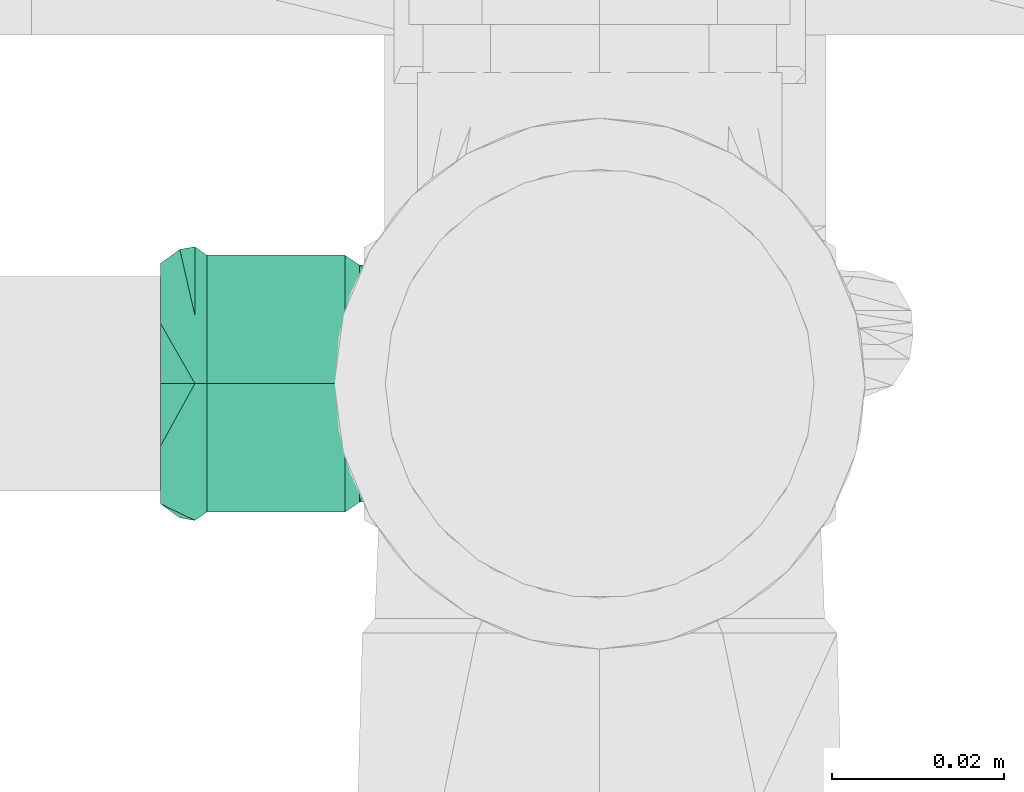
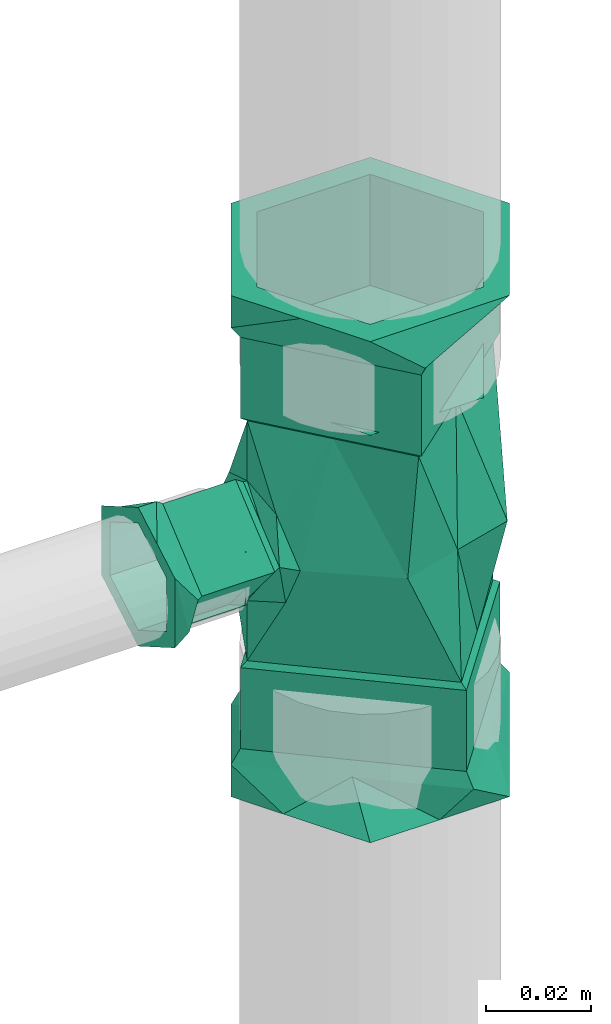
# One storey, part 208 of 589: 1 flow fitting.
"""IFC2X3 building model written with IfcOpenShell, lengths in millimetres."""

from ifc_helpers import new_model, entity, si_unit, converted_unit, derived_unit, direction, frame, origin, place, context, subcontext, project, spatial, faceted_brep, source, transform, mapped, material, type_object, type_shapes, element, save


model = new_model("IFC2X3")

# Units and contexts
model_context = context("Model", 3, precision=0.01, world=origin(), true_north=direction((6.123031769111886e-17, 1.0)))
body_context = subcontext(model_context, "Body", "Model", "MODEL_VIEW")
ifc_project = project(units=[si_unit("LENGTHUNIT", "METRE", prefix="MILLI"), si_unit("AREAUNIT", "SQUARE_METRE"), si_unit("VOLUMEUNIT", "CUBIC_METRE"), converted_unit("PLANEANGLEUNIT", "DEGREE", entity("IfcRatioMeasure", 0.017453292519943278), si_unit("PLANEANGLEUNIT", "RADIAN"), dimensions=[0, 0, 0, 0, 0, 0, 0]), si_unit("MASSUNIT", "GRAM", prefix="KILO"), derived_unit("MASSDENSITYUNIT", [(si_unit("MASSUNIT", "GRAM", prefix="KILO"), 1), (si_unit("LENGTHUNIT", "METRE"), -3)]), derived_unit("IONCONCENTRATIONUNIT", [(si_unit("MASSUNIT", "GRAM", prefix="KILO"), 1), (si_unit("LENGTHUNIT", "METRE"), -3)]), derived_unit("MOMENTOFINERTIAUNIT", [(si_unit("LENGTHUNIT", "METRE"), 4)]), si_unit("TIMEUNIT", "SECOND"), si_unit("FREQUENCYUNIT", "HERTZ"), si_unit("THERMODYNAMICTEMPERATUREUNIT", "DEGREE_CELSIUS"), derived_unit("THERMALTRANSMITTANCEUNIT", [(si_unit("MASSUNIT", "GRAM", prefix="KILO"), 1), (si_unit("THERMODYNAMICTEMPERATUREUNIT", "KELVIN"), -1), (si_unit("TIMEUNIT", "SECOND"), -3)]), derived_unit("THERMALCONDUCTANCEUNIT", [(si_unit("MASSUNIT", "GRAM", prefix="KILO"), 1), (si_unit("THERMODYNAMICTEMPERATUREUNIT", "KELVIN"), -1), (si_unit("TIMEUNIT", "SECOND"), -3), (si_unit("LENGTHUNIT", "METRE"), 1)]), derived_unit("VOLUMETRICFLOWRATEUNIT", [(si_unit("LENGTHUNIT", "METRE"), 3), (si_unit("TIMEUNIT", "SECOND"), -1)]), derived_unit("MASSFLOWRATEUNIT", [(si_unit("MASSUNIT", "GRAM", prefix="KILO"), 1), (si_unit("TIMEUNIT", "SECOND"), -1)]), derived_unit("ROTATIONALFREQUENCYUNIT", [(si_unit("TIMEUNIT", "SECOND"), -1)]), si_unit("ELECTRICCURRENTUNIT", "AMPERE"), si_unit("ELECTRICVOLTAGEUNIT", "VOLT"), si_unit("POWERUNIT", "WATT"), si_unit("FORCEUNIT", "NEWTON", prefix="KILO"), si_unit("ILLUMINANCEUNIT", "LUX"), si_unit("LUMINOUSFLUXUNIT", "LUMEN"), si_unit("LUMINOUSINTENSITYUNIT", "CANDELA"), derived_unit("USERDEFINED", [(si_unit("MASSUNIT", "GRAM", prefix="KILO"), -1), (si_unit("LENGTHUNIT", "METRE"), -2), (si_unit("TIMEUNIT", "SECOND"), 3), (si_unit("LUMINOUSFLUXUNIT", "LUMEN"), 1)]), derived_unit("USERDEFINED", [(si_unit("MASSUNIT", "GRAM", prefix="KILO"), 1), (si_unit("TIMEUNIT", "SECOND"), -3), (si_unit("LENGTHUNIT", "METRE"), 3), (si_unit("ELECTRICCURRENTUNIT", "AMPERE"), -2)]), derived_unit("SOUNDPOWERUNIT", [(si_unit("MASSUNIT", "GRAM", prefix="KILO"), 1), (si_unit("TIMEUNIT", "SECOND"), -3), (si_unit("LENGTHUNIT", "METRE"), 2)]), derived_unit("SOUNDPRESSUREUNIT", [(si_unit("MASSUNIT", "GRAM", prefix="KILO"), 1), (si_unit("LENGTHUNIT", "METRE"), -1), (si_unit("TIMEUNIT", "SECOND"), -2)]), derived_unit("LINEARVELOCITYUNIT", [(si_unit("LENGTHUNIT", "METRE"), 1), (si_unit("TIMEUNIT", "SECOND"), -1)]), si_unit("PRESSUREUNIT", "PASCAL"), derived_unit("USERDEFINED", [(si_unit("MASSUNIT", "GRAM", prefix="KILO"), 1), (si_unit("LENGTHUNIT", "METRE"), -2), (si_unit("TIMEUNIT", "SECOND"), -2)]), derived_unit("LINEARFORCEUNIT", [(si_unit("MASSUNIT", "GRAM", prefix="KILO"), 1), (si_unit("TIMEUNIT", "SECOND"), -2)]), derived_unit("PLANARFORCEUNIT", [(si_unit("MASSUNIT", "GRAM", prefix="KILO"), 1), (si_unit("LENGTHUNIT", "METRE"), -1), (si_unit("TIMEUNIT", "SECOND"), -2)]), derived_unit("SPECIFICHEATCAPACITYUNIT", [(si_unit("THERMODYNAMICTEMPERATUREUNIT", "KELVIN"), -1), (si_unit("LENGTHUNIT", "METRE"), 2), (si_unit("TIMEUNIT", "SECOND"), -2)]), derived_unit("HEATINGVALUEUNIT", [(si_unit("LENGTHUNIT", "METRE"), 2), (si_unit("TIMEUNIT", "SECOND"), -2)]), derived_unit("VAPORPERMEABILITYUNIT", [(si_unit("LENGTHUNIT", "METRE"), -1), (si_unit("TIMEUNIT", "SECOND"), 1)]), derived_unit("DYNAMICVISCOSITYUNIT", [(si_unit("MASSUNIT", "GRAM", prefix="KILO"), 1), (si_unit("TIMEUNIT", "SECOND"), -1), (si_unit("LENGTHUNIT", "METRE"), -1)]), derived_unit("THERMALEXPANSIONCOEFFICIENTUNIT", [(si_unit("THERMODYNAMICTEMPERATUREUNIT", "KELVIN"), -1)]), derived_unit("MODULUSOFELASTICITYUNIT", [(si_unit("MASSUNIT", "GRAM", prefix="KILO"), 1), (si_unit("LENGTHUNIT", "METRE"), -1), (si_unit("TIMEUNIT", "SECOND"), -2)]), derived_unit("ISOTHERMALMOISTURECAPACITYUNIT", [(si_unit("LENGTHUNIT", "METRE"), 3), (si_unit("MASSUNIT", "GRAM", prefix="KILO"), -1)]), derived_unit("MOISTUREDIFFUSIVITYUNIT", [(si_unit("TIMEUNIT", "SECOND"), -1), (si_unit("LENGTHUNIT", "METRE"), 2)])], contexts=[model_context])

# Site, building, storey
site_placement = place(None, origin())
site = spatial("IfcSite", under=ifc_project, at=site_placement, Name="Default", CompositionType="ELEMENT")
building_placement = place(site_placement, origin())
building = spatial("IfcBuilding", under=site, at=building_placement, CompositionType="ELEMENT")
storey_placement = place(building_placement, frame((0.0, 0.0, 100.0)))
storey = spatial("IfcBuildingStorey", under=building, at=storey_placement, Name="TÉRREO", CompositionType="ELEMENT", Elevation=100.0)

# Flow fitting
ifc_material = material(Name="PVC Marrom")
pipe_fitting_type = type_object("IfcPipeFittingType", Name="PVC Marrom Soldável_Tê e Tê de Reducão_Rodrigo MEP:Tê", PredefinedType="NOTDEFINED", material=ifc_material)
shared_shape = source(origin(), body_context, "Body", "Brep", [
    faceted_brep([(8.099999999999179, -51.19999999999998, -14.029611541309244), (12.500000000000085, -51.19999999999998, 0.0), (6.249999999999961, -51.199999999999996, -10.82531754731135), (12.006116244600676, -51.19999999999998, -7.26401974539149), (-6.250000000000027, -51.20000000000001, -10.825317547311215), (0.0, -51.2, -14.02961154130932), (16.20000000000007, -51.199999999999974, 0.0), (6.250000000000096, -51.199999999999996, 10.825317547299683), (12.15000000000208, -51.19999999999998, 7.014805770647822), (8.10000000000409, -51.19999999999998, 14.029611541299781), (-6.249999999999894, -51.20000000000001, 10.825317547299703), (0.0, -51.2, 14.02961154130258), (-8.09999999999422, -51.20000000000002, 14.029611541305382), (-12.00611625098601, -51.20000000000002, 7.2640197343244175), (-16.199999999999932, -51.200000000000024, 0.0), (-12.499999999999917, -51.20000000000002, 0.0), (-12.149999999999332, -51.20000000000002, -7.014805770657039), (-8.099999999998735, -51.20000000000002, -14.0296115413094), (-9.505660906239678, -47.19999999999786, 7.977099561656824), (-2.81132181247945, -47.19999999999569, 15.95419912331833), (4.194176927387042, -48.95626714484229, 15.647647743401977), (-16.199999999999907, -47.200000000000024, 0.0), (16.200000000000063, -47.199999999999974, 0.0), (6.694339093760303, -47.19999999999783, 7.977099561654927), (10.200288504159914, -47.19999999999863, 5.034925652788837), (1.941508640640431, -47.1999999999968, 11.965649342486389), (9.50766188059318, -47.19999999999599, -7.976746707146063), (2.8153237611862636, -47.19999999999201, -15.953493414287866), (-4.191233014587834, -48.95635467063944, -15.648436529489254), (-6.692338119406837, -47.199999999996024, -7.97674670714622), (-10.19988795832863, -47.199999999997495, -5.033979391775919), (-1.938507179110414, -47.199999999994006, -11.965120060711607), (-6.250000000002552, -47.2, -10.825317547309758), (-9.37499999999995, -47.20000000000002, -5.412658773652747), (-12.499999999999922, -47.20000000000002, 0.0), (-8.816048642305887, -45.80000000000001, -6.380790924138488), (-6.249999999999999, -45.80000000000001, -10.82531754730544), (-6.249999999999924, -33.7, -10.825317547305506), (-12.499999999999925, -45.80000000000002, 0.0), (-12.499999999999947, -33.70000000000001, 0.0), (0.0, -47.199999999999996, -10.82531754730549), (6.250000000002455, -47.19999999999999, -10.825317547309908), (6.249999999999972, -45.8, -10.825317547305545), (0.0, -45.800000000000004, -10.825317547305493), (6.250000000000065, -33.699999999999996, -10.825317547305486), (12.50000000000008, -47.19999999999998, 0.0), (8.816048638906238, -47.19999999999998, -6.380790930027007), (9.375000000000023, -45.8, -5.4126587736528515), (12.500000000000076, -45.799999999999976, 0.0), (12.500000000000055, -33.69999999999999, 0.0), (6.249999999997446, -47.19999999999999, 10.825317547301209), (9.37500000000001, -47.19999999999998, 5.4126587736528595), (8.81604864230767, -45.8, 6.380790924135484), (6.249999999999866, -45.8, 10.825317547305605), (6.2499999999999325, -33.699999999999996, 10.825317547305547), (0.0, -47.199999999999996, 10.82531754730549), (-6.2499999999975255, -47.2, 10.82531754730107), (-6.250000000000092, -45.80000000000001, 10.825317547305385), (0.0, -45.800000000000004, 10.825317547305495), (-6.250000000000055, -33.7, 10.825317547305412), (-8.816048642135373, -47.20000000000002, 6.380790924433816), (-9.375000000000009, -45.80000000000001, 5.412658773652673), (-9.570641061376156, -45.79999999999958, -4.724127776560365), (2.6377834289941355, -45.799999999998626, -14.96937201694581), (15.200000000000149, -45.799999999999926, 0.0), (-15.199999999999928, -45.800000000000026, 0.0), (-9.79862070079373, -45.79999999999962, -4.5328084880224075), (8.918891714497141, -45.79999999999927, -7.484686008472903), (-3.941282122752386, -45.799999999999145, -9.44825555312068), (-4.397241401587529, -45.79999999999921, -9.065616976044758), (10.739615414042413, -45.80000000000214, 3.7421774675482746), (6.279230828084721, -45.80000000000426, 7.484354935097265), (1.8188462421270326, -45.80000000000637, 11.226532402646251), (-2.641538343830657, -45.80000000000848, 14.96870987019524), (-6.443631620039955, -45.80000000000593, 10.436910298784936), (-8.920769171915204, -45.800000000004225, 7.484354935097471), (-10.245724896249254, -45.80000000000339, 5.9051107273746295), (-8.918891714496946, -29.700000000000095, 7.4846860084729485), (9.798620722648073, -29.70000000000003, 4.532808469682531), (6.281108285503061, -29.700000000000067, 7.484686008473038), (4.3972414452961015, -29.70000000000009, 9.065616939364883), (-15.199999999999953, -29.700000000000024, 0.0), (-2.637783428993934, -29.70000000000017, 14.96937201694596), (15.200000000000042, -29.699999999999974, 0.0), (8.920769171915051, -29.699999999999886, -7.484354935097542), (2.6415383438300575, -29.699999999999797, -14.968709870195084), (-6.279230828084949, -29.699999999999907, -7.484354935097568), (-8.651615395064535, -28.0, -4.521903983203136), (-5.801761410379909, -28.0, -6.91348643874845), (-3.263230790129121, -28.0, -9.043807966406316), (-14.039999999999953, -28.0, 0.0), (2.436477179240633, -28.0, -13.826972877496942), (8.238238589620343, -28.0, -6.913486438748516), (14.040000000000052, -28.0, 0.0), (5.800025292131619, -28.0, 6.913180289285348), (-2.439949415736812, -28.0, 13.826360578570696), (-9.297801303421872, -28.0, 5.652333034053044), (-8.239974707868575, -28.0, 6.913180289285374), (-13.993250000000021, -27.149999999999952, 0.0), (-8.698026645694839, -24.90789224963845, -10.803675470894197), (0.0, -23.389258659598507, -13.786409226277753), (13.993249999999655, -27.149999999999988, 0.0), (10.886120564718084, -25.729354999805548, -8.667340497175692), (8.698026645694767, -24.907892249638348, 10.803675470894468), (0.0, -23.389258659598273, 13.786409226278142), (-10.886120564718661, -25.729354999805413, 8.667340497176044), (-32.59999999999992, -25.0, 0.0), (-32.59999999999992, -19.790106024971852, 9.023801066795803), (-32.59999999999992, -12.500000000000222, 21.650635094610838), (-32.59999999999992, 0.0, 21.65063509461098), (-32.59999999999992, 12.499999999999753, 21.65063509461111), (-32.59999999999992, 18.749999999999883, 10.825317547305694), (-32.59999999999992, 25.0, 0.0), (-32.59999999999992, 19.790105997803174, -9.023801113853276), (-32.59999999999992, 12.500000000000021, -21.65063509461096), (-32.59999999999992, 0.0, -21.65063509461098), (-32.59999999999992, -12.49999999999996, -21.650635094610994), (-32.59999999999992, -18.749999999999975, -10.825317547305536), (-48.0, -12.500000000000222, 21.650635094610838), (-48.0, -18.750000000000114, 10.825317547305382), (-58.50000000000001, -18.75000000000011, 10.82531754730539), (-58.50000000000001, -12.500000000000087, 21.650635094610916), (-48.0, -19.790106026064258, 9.02380106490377), (-48.0, -25.0, 0.0), (-58.50000000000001, -25.0, 0.0), (32.60000000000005, -25.0, 0.0), (32.60000000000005, -18.74999999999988, 10.825317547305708), (32.60000000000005, -12.499999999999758, 21.65063509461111), (58.5, -12.499999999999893, 21.650635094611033), (58.500000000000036, -19.97114481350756, 8.71023268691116), (58.5, -25.0, 0.0), (-48.0, 0.0, 21.650635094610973), (-48.0, 12.499999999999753, 21.65063509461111), (-58.50000000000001, 0.0, 21.650635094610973), (-58.50000000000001, 12.499999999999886, 21.650635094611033), (32.60000000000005, 0.0, 21.650635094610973), (32.60000000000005, 12.500000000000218, 21.650635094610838), (58.5, 12.500000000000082, 21.650635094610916), (58.5, 0.0, 21.650635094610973), (-48.0, 19.790106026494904, 9.023801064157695), (-48.0, 25.0, 0.0), (-48.0, 18.749999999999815, 10.825317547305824), (-58.49999999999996, 19.79010602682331, 9.023801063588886), (-58.50000000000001, 25.0, 0.0), (32.60000000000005, 19.97114481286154, 8.71023268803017), (32.60000000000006, 25.0, 0.0), (58.5, 25.0, 0.0), (58.5, 18.75000000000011, 10.825317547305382), (-48.0, 12.49999999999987, -21.650635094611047), (-48.0, 18.749999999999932, -10.825317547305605), (-58.50000000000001, 18.749999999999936, -10.825317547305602), (-58.50000000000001, 12.499999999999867, -21.650635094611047), (-48.0, 19.790106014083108, -9.023801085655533), (32.60000000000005, 18.749999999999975, -10.82531754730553), (32.60000000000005, 12.499999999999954, -21.650635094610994), (58.5, 12.5000000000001, -21.650635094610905), (58.500000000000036, 19.97114481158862, -8.710232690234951), (-48.0, 0.0, -21.65063509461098), (-48.0, -12.50000000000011, -21.650635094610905), (-58.50000000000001, 0.0, -21.65063509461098), (-58.50000000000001, -12.500000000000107, -21.650635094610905), (32.60000000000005, 0.0, -21.65063509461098), (32.60000000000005, -12.500000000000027, -21.65063509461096), (58.5, -12.499999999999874, -21.650635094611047), (58.5, 0.0, -21.65063509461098), (-48.0, -19.790106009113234, -9.02380109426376), (-48.0, -18.75000000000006, -10.825317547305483), (-58.49999999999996, -19.79010602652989, -9.023801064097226), (32.60000000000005, -19.971144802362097, -8.710232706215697), (58.5, -18.749999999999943, -10.825317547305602), (-28.0, 15.934137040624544, -13.368436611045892), (0.0, 27.15, 0.0), (0.0, 19.249777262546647, -19.145980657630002), (0.0, 6.194218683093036, -22.707339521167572), (-28.0, 20.511742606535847, -7.912286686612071), (-28.0, 27.15, 0.0), (0.0, -6.861339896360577, -26.268698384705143), (-28.0, 4.718274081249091, -26.73687322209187), (-28.0, -27.15, 0.0), (-28.0, -19.18293147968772, -6.684218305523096), (-28.0, -11.215862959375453, -13.368436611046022), (-28.0, -3.2487944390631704, -20.052654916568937), (-28.0, 10.326205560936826, -20.052654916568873), (-28.0, -15.930783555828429, 13.369027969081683), (0.0, -6.86133989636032, 26.268698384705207), (-28.0, -4.711567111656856, 26.738055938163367), (-28.0, -10.32117533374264, 20.053541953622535), (0.0, 19.24977726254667, 19.145980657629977), (-28.0, 19.60719441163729, 6.329881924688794), (-28.0, 11.219216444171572, 13.369027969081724), (0.0, 6.194218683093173, 22.707339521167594), (-28.0, 3.2538246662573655, 20.05354195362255), (-28.0, -20.510950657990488, 7.911215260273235), (-29.099999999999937, 16.81093734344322, -14.107648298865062), (-29.099999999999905, 10.891406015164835, -21.16147244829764), (-29.099999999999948, -12.730929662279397, -13.359198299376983), (-29.099999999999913, -3.8795274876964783, -20.787247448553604), (-29.099999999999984, -20.690464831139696, -6.679599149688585), (-29.099999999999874, 4.97187468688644, -28.215296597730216), (-29.1, 28.650000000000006, 0.0), (-29.099999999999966, 22.730468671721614, -7.053824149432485), (-29.09999999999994, -11.83906265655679, -14.107648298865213), (-29.100000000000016, -28.649999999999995, 0.0), (-29.100000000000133, -9.809464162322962, 22.456453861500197), (-29.100000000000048, -21.64498805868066, 8.349429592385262), (-29.10000000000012, 3.4282858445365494, 21.160536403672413), (-29.10000000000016, -4.978952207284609, 28.21404853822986), (-29.100000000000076, 11.835523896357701, 14.107024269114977), (-29.10000000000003, 20.242761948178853, 7.053512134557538), (-29.100000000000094, -14.639976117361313, 16.698859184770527), (-29.10000000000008, -16.814476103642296, 14.107024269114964), (-48.0, -4.978952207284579, 28.214048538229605), (-48.0, 28.650000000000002, 0.0), (-48.0, 12.939627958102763, 13.18070205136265), (-48.0, 11.835523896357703, 14.107024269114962), (-48.0, -16.81447610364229, 14.107024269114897), (-48.0, -28.650000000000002, 0.0), (-48.0, 4.971874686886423, -28.215296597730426), (-48.0, -12.94067667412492, -13.183179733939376), (-48.0, -11.839062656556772, -14.107648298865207), (-48.0, 16.81093734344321, -14.107648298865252), (-51.0, 16.175349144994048, -17.370576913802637), (-51.0, 18.04585747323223, -15.141239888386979), (-51.0, 30.75, 0.0), (-51.0, -12.704142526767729, -15.141239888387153), (-51.0, 5.341714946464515, -30.282479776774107), (-51.0, -30.74999999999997, 0.0), (-51.0, -5.3380546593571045, 30.283125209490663), (-51.0, -18.044027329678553, 15.141562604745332), (-51.0, 4.425812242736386, 22.08982117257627), (-51.0, 14.189679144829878, 13.896517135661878), (-51.0, 12.705972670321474, 15.141562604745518), (-58.50000000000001, -15.375000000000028, -26.63028116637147), (-58.500000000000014, -24.971948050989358, -10.007879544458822), (-58.50000000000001, 0.0, -26.6302811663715), (-58.50000000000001, -30.75, 0.0), (-58.50000000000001, -23.06249999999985, 13.315140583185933), (-58.50000000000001, -15.374999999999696, 26.630281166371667), (-58.50000000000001, 0.0, 26.6302811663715), (-58.50000000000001, 15.375000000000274, 26.63028116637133), (-58.500000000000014, 24.97194806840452, 10.007879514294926), (-58.50000000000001, 30.75, 0.0), (-58.50000000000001, 23.062499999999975, -13.315140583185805), (-58.50000000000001, 15.374999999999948, -26.630281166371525), (51.0, 30.749999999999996, 0.0), (58.5, 23.06249999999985, 13.315140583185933), (58.5, 30.75, 0.0), (51.0, -30.749999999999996, 0.0), (58.5, -30.75, 0.0), (58.5, -24.97194806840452, 10.007879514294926), (58.5, -23.062499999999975, -13.315140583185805), (58.5, 24.971948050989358, -10.007879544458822), (28.0, -15.934137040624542, -13.36843661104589), (28.0, -27.15, 0.0), (28.0, -4.718274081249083, -26.736873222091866), (28.0, -10.326205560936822, -20.05265491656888), (28.0, 27.15, 0.0), (28.0, 19.182931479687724, -6.6842183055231), (28.0, 11.215862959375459, -13.368436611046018), (28.0, 3.248794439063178, -20.052654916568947), (28.0, -20.511742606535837, -7.912286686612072), (28.0, 15.930783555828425, 13.369027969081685), (28.0, 20.51095065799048, 7.9112152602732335), (28.0, 4.711567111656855, 26.73805593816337), (28.0, -19.607194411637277, 6.329881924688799), (28.0, -11.21921644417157, 13.36902796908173), (28.0, -3.2538246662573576, 20.05354195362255), (28.0, 10.321175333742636, 20.053541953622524), (29.099999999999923, -16.81093734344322, -14.107648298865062), (29.09999999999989, -10.891406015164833, -21.16147244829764), (29.099999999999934, 12.730929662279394, -13.359198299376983), (29.09999999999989, 3.879527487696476, -20.787247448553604), (29.099999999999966, 20.690464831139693, -6.679599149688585), (29.099999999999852, -4.971874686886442, -28.215296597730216), (29.1, -28.650000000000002, 0.0), (29.099999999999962, -22.73046867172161, -7.053824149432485), (29.099999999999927, 11.83906265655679, -14.107648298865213), (29.1, 28.64999999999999, 0.0), (29.10000000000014, 9.809464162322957, 22.45645386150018), (29.10000000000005, 21.644988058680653, 8.349429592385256), (29.100000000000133, -3.4282858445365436, 21.160536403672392), (29.100000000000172, 4.978952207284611, 28.214048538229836), (29.100000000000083, -11.83552389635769, 14.107024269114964), (29.100000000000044, -20.242761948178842, 7.053512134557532), (29.1000000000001, 14.639976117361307, 16.69885918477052), (29.10000000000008, 16.814476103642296, 14.107024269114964), (48.0, 4.978952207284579, 28.214048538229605), (48.0, -28.650000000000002, 0.0), (48.0, -12.939627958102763, 13.18070205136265), (48.0, -11.835523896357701, 14.107024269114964), (48.0, 16.81447610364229, 14.107024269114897), (48.0, 28.650000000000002, 0.0), (48.0, -4.971874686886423, -28.215296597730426), (48.0, 12.94067667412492, -13.183179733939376), (48.0, 11.83906265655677, -14.107648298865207), (48.0, -16.81093734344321, -14.107648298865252), (51.0, -16.174511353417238, -17.369443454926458), (51.0, -18.044027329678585, -15.141562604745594), (51.0, 12.70597267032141, -15.141562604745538), (51.0, -5.33805465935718, -30.283125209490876), (51.0, 5.341714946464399, 30.28247977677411), (51.0, 18.045857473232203, 15.141239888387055), (51.0, -4.423715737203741, 22.088869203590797), (51.0, -14.189146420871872, 13.895258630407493), (51.0, -12.70414252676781, 15.141239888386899), (58.5, 15.375000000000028, -26.63028116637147), (58.5, 0.0, -26.6302811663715), (58.5, 15.374999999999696, 26.630281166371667), (58.5, 0.0, 26.6302811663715), (58.5, -15.375000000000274, 26.63028116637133), (58.5, -15.374999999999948, -26.630281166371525)], [[[0, 1, 2]], [[1, 0, 3]], [[0, 2, 4]], [[4, 5, 0]], [[1, 3, 6]], [[7, 1, 6]], [[7, 6, 8]], [[7, 8, 9]], [[7, 9, 10]], [[10, 9, 11]], [[10, 11, 12]], [[10, 12, 13]], [[10, 13, 14]], [[14, 15, 10]], [[15, 14, 16]], [[15, 16, 17]], [[17, 4, 15]], [[4, 17, 5]], [[18, 12, 19]], [[12, 20, 19]], [[18, 21, 13]], [[21, 14, 13]], [[22, 8, 6]], [[20, 8, 23]], [[8, 22, 24, 23]], [[20, 23, 25, 19]], [[20, 12, 11, 9]], [[8, 20, 9]], [[12, 18, 13]], [[26, 0, 27]], [[0, 28, 27]], [[26, 22, 3]], [[22, 6, 3]], [[21, 16, 14]], [[28, 16, 29]], [[16, 21, 30, 29]], [[28, 29, 31, 27]], [[28, 0, 5, 17]], [[16, 28, 17]], [[0, 26, 3]], [[4, 32, 33]], [[4, 33, 34]], [[34, 15, 4]], [[33, 32, 35]], [[36, 35, 32]], [[37, 35, 36]], [[37, 38, 35]], [[38, 37, 39]], [[38, 34, 33]], [[33, 35, 38]], [[4, 2, 32]], [[2, 40, 32]], [[2, 41, 40]], [[42, 40, 41]], [[43, 40, 42]], [[44, 43, 42]], [[44, 36, 43]], [[44, 37, 36]], [[43, 36, 32]], [[32, 40, 43]], [[1, 45, 46]], [[1, 46, 41]], [[41, 2, 1]], [[47, 46, 45]], [[45, 48, 47]], [[49, 47, 48]], [[49, 42, 47]], [[42, 49, 44]], [[41, 46, 42]], [[47, 42, 46]], [[7, 50, 51]], [[7, 51, 45]], [[45, 1, 7]], [[51, 50, 52]], [[53, 52, 50]], [[54, 52, 53]], [[54, 48, 52]], [[48, 54, 49]], [[48, 45, 51]], [[51, 52, 48]], [[7, 10, 50]], [[10, 55, 50]], [[10, 56, 55]], [[57, 55, 56]], [[58, 55, 57]], [[59, 58, 57]], [[59, 53, 58]], [[59, 54, 53]], [[58, 53, 50]], [[50, 55, 58]], [[15, 34, 60]], [[15, 60, 56]], [[56, 10, 15]], [[61, 60, 34]], [[34, 38, 61]], [[39, 61, 38]], [[39, 57, 61]], [[57, 39, 59]], [[56, 60, 57]], [[61, 57, 60]], [[30, 62, 29]], [[31, 63, 27]], [[22, 26, 64]], [[30, 65, 66, 62]], [[27, 63, 67]], [[67, 26, 27]], [[21, 65, 30]], [[63, 31, 68]], [[64, 26, 67]], [[29, 62, 69, 68]], [[31, 29, 68]], [[22, 64, 70]], [[25, 71, 72]], [[72, 19, 25]], [[71, 25, 23, 24]], [[19, 73, 74]], [[18, 74, 75, 76]], [[24, 70, 71]], [[76, 21, 18]], [[76, 65, 21]], [[22, 70, 24]], [[72, 73, 19]], [[19, 74, 18]], [[77, 75, 74, 73]], [[71, 78, 79, 80]], [[81, 65, 76, 75]], [[78, 71, 70, 64]], [[80, 82, 73]], [[81, 75, 77]], [[73, 82, 77]], [[78, 64, 83]], [[80, 73, 72, 71]], [[64, 84, 83]], [[84, 64, 67]], [[85, 63, 68, 69]], [[66, 65, 81]], [[85, 69, 86]], [[86, 69, 62, 66]], [[63, 85, 67]], [[81, 86, 66]], [[67, 85, 84]], [[81, 87, 86]], [[86, 87, 88, 89]], [[87, 81, 90]], [[85, 89, 91]], [[85, 91, 92]], [[92, 84, 85]], [[93, 84, 92]], [[89, 85, 86]], [[83, 84, 93]], [[93, 79, 78, 83]], [[94, 82, 80, 79]], [[82, 94, 95]], [[95, 77, 82]], [[96, 90, 81]], [[77, 95, 97, 96]], [[96, 81, 77]], [[93, 94, 79]], [[98, 88, 87, 90]], [[98, 99, 88]], [[99, 100, 91]], [[101, 93, 92]], [[99, 91, 89, 88]], [[101, 92, 102]], [[92, 91, 102]], [[102, 91, 100]], [[101, 94, 93]], [[101, 103, 94]], [[103, 104, 95]], [[98, 90, 96, 97]], [[103, 95, 94]], [[98, 97, 105]], [[97, 95, 105]], [[105, 95, 104]], [[39, 37, 44, 49, 54, 59]], [[106, 107, 108, 109, 110, 111, 112, 113, 114, 115, 116, 117]], [[118, 108, 119]], [[120, 118, 119]], [[121, 118, 120]], [[107, 119, 108]], [[107, 122, 119]], [[107, 123, 122]], [[107, 106, 123]], [[122, 123, 124]], [[124, 120, 122]], [[120, 119, 122]], [[125, 126, 127, 128, 129, 130]], [[110, 109, 131]], [[131, 132, 110]], [[131, 109, 118]], [[118, 109, 108]], [[121, 131, 118]], [[133, 131, 121]], [[132, 131, 133]], [[133, 134, 132]], [[127, 135, 136, 137, 138, 128]], [[112, 111, 139]], [[139, 140, 112]], [[111, 141, 139]], [[111, 132, 141]], [[110, 132, 111]], [[132, 134, 141]], [[142, 141, 134]], [[142, 140, 139]], [[142, 143, 140]], [[142, 139, 141]], [[137, 136, 144, 145, 146, 147]], [[148, 114, 149]], [[150, 148, 149]], [[151, 148, 150]], [[113, 149, 114]], [[113, 152, 149]], [[113, 140, 152]], [[113, 112, 140]], [[152, 140, 143]], [[143, 150, 152]], [[150, 149, 152]], [[145, 153, 154, 155, 156, 146]], [[116, 115, 157]], [[157, 158, 116]], [[157, 115, 148]], [[148, 115, 114]], [[151, 157, 148]], [[159, 157, 151]], [[158, 157, 159]], [[159, 160, 158]], [[154, 161, 162, 163, 164, 155]], [[106, 117, 165]], [[165, 123, 106]], [[117, 166, 165]], [[117, 158, 166]], [[116, 158, 117]], [[158, 160, 166]], [[167, 166, 160]], [[167, 123, 165]], [[167, 124, 123]], [[167, 165, 166]], [[163, 162, 168, 125, 130, 169]], [[170, 171, 172]], [[170, 172, 173]], [[171, 170, 174, 175]], [[176, 177, 173]], [[176, 100, 99]], [[99, 178, 179, 180]], [[99, 98, 178]], [[176, 180, 181, 177]], [[173, 177, 182, 170]], [[180, 176, 99]], [[183, 105, 104]], [[178, 98, 105]], [[184, 185, 186, 183]], [[187, 171, 175]], [[187, 175, 188, 189]], [[190, 187, 189]], [[190, 189, 191, 185]], [[105, 183, 192, 178]], [[185, 184, 190]], [[104, 184, 183]], [[170, 182, 193, 174]], [[177, 194, 182]], [[180, 179, 195]], [[181, 180, 196]], [[178, 197, 179]], [[198, 177, 181]], [[199, 175, 200]], [[194, 177, 198]], [[180, 195, 201, 196]], [[198, 181, 196]], [[175, 174, 200]], [[174, 193, 200]], [[197, 178, 202]], [[197, 195, 179]], [[194, 193, 182]], [[185, 203, 186]], [[202, 178, 204]], [[185, 205, 206]], [[207, 189, 208]], [[209, 183, 186]], [[175, 199, 188]], [[191, 207, 205]], [[183, 209, 210, 204]], [[188, 208, 189]], [[207, 191, 189]], [[185, 191, 205]], [[178, 192, 183, 204]], [[188, 199, 208]], [[203, 185, 206]], [[203, 209, 186]], [[211, 206, 205, 207, 208, 199, 212, 213, 214]], [[215, 216, 202, 204, 210, 209, 203, 206, 211]], [[217, 198, 196, 201, 195, 197, 202, 216, 218, 219]], [[220, 212, 199, 200, 193, 194, 198, 217]], [[217, 221, 220]], [[220, 221, 222, 223]], [[217, 224, 225]], [[226, 219, 218, 216]], [[223, 212, 220]], [[221, 217, 225]], [[224, 217, 219]], [[226, 224, 219]], [[211, 227, 228]], [[229, 227, 211]], [[229, 211, 214]], [[228, 215, 211]], [[212, 223, 230]], [[226, 215, 228]], [[214, 230, 231, 229]], [[216, 215, 226]], [[230, 214, 213, 212]], [[232, 124, 167]], [[124, 232, 233]], [[232, 167, 160]], [[232, 160, 159]], [[232, 159, 151]], [[151, 234, 232]], [[124, 233, 235]], [[235, 120, 124]], [[235, 121, 120]], [[121, 235, 236]], [[121, 236, 237]], [[237, 133, 121]], [[237, 134, 133]], [[134, 237, 238]], [[134, 238, 239]], [[134, 239, 240]], [[134, 240, 241]], [[241, 142, 134]], [[241, 143, 142]], [[143, 241, 242]], [[143, 242, 243]], [[243, 151, 150]], [[151, 243, 234]], [[243, 150, 143]], [[231, 240, 239]], [[240, 231, 230, 223]], [[223, 241, 240]], [[244, 245, 246]], [[226, 236, 235]], [[247, 248, 249]], [[227, 237, 228]], [[228, 237, 236]], [[226, 228, 236]], [[227, 239, 238, 237]], [[239, 227, 229, 231]], [[224, 233, 232]], [[224, 226, 233]], [[226, 235, 233]], [[247, 250, 248]], [[223, 242, 241]], [[244, 246, 251]], [[243, 222, 221, 225]], [[222, 243, 242]], [[223, 222, 242]], [[224, 234, 225]], [[225, 234, 243]], [[224, 232, 234]], [[252, 102, 100]], [[253, 101, 102]], [[176, 254, 255, 252]], [[172, 171, 256]], [[172, 256, 257, 258]], [[173, 172, 258]], [[173, 258, 259, 254]], [[102, 252, 260, 253]], [[254, 176, 173]], [[100, 176, 252]], [[261, 171, 187]], [[261, 187, 190]], [[171, 261, 262, 256]], [[184, 263, 190]], [[184, 104, 103]], [[103, 253, 264, 265]], [[103, 101, 253]], [[184, 265, 266, 263]], [[190, 263, 267, 261]], [[265, 184, 103]], [[252, 255, 268, 260]], [[254, 269, 255]], [[258, 257, 270]], [[259, 258, 271]], [[256, 272, 257]], [[273, 254, 259]], [[274, 253, 275]], [[269, 254, 273]], [[258, 270, 276, 271]], [[273, 259, 271]], [[253, 260, 275]], [[260, 268, 275]], [[272, 256, 277]], [[272, 270, 257]], [[269, 268, 255]], [[263, 278, 267]], [[277, 256, 279]], [[263, 280, 281]], [[282, 265, 283]], [[284, 261, 267]], [[253, 274, 264]], [[266, 282, 280]], [[261, 284, 285, 279]], [[264, 283, 265]], [[282, 266, 265]], [[263, 266, 280]], [[256, 262, 261, 279]], [[264, 274, 283]], [[278, 263, 281]], [[278, 284, 267]], [[286, 281, 280, 282, 283, 274, 287, 288, 289]], [[290, 291, 277, 279, 285, 284, 278, 281, 286]], [[292, 273, 271, 276, 270, 272, 277, 291, 293, 294]], [[295, 287, 274, 275, 268, 269, 273, 292]], [[292, 296, 295]], [[295, 296, 297, 247]], [[292, 298, 299]], [[244, 294, 293, 291]], [[247, 287, 295]], [[296, 292, 299]], [[298, 292, 294]], [[244, 298, 294]], [[286, 300, 301]], [[302, 300, 286]], [[302, 286, 289]], [[301, 290, 286]], [[287, 247, 303]], [[244, 290, 301]], [[289, 303, 304, 302]], [[291, 290, 244]], [[303, 289, 288, 287]], [[305, 146, 156]], [[146, 305, 251]], [[305, 156, 155]], [[305, 155, 164]], [[305, 164, 163]], [[163, 306, 305]], [[146, 251, 246]], [[246, 147, 146]], [[246, 137, 147]], [[137, 246, 245]], [[137, 245, 307]], [[307, 138, 137]], [[307, 128, 138]], [[128, 307, 308]], [[128, 308, 309]], [[128, 309, 249]], [[128, 249, 248]], [[248, 129, 128]], [[248, 130, 129]], [[130, 248, 250]], [[130, 250, 310]], [[310, 163, 169]], [[163, 310, 306]], [[310, 169, 130]], [[304, 249, 309]], [[249, 304, 303, 247]], [[300, 307, 301]], [[301, 307, 245]], [[244, 301, 245]], [[308, 300, 302, 304]], [[300, 308, 307]], [[304, 309, 308]], [[298, 251, 305]], [[298, 244, 251]], [[310, 297, 296, 299]], [[297, 310, 250]], [[247, 297, 250]], [[299, 305, 306, 310]], [[299, 298, 305]], [[145, 144, 136, 135, 127, 126, 125, 168, 162, 161, 154, 153]]]),
])
type_shapes(pipe_fitting_type, [shared_shape])
flow_fitting_placement = place(storey_placement, frame((10616.154026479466, -477.46117215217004, 1499.999970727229), z_axis=(0.0, -1.0, 0.0), x_axis=(0.0, 0.0, -1.0)))
element("IfcFlowFitting", 1, at=flow_fitting_placement, inside=storey, type_object=pipe_fitting_type, material=ifc_material, Name="PVC Marrom Soldável_Tê e Tê de Reducão_Rodrigo MEP:Tê", ObjectType="PVC Marrom Soldável_Tê e Tê de Reducão_Rodrigo MEP:Tê", context=body_context, shape_type="MappedRepresentation", body=[
    mapped(shared_shape, transform((0.0, 0.0, 0.0), scale=1.0)),
])

save(model, "model.ifc")
